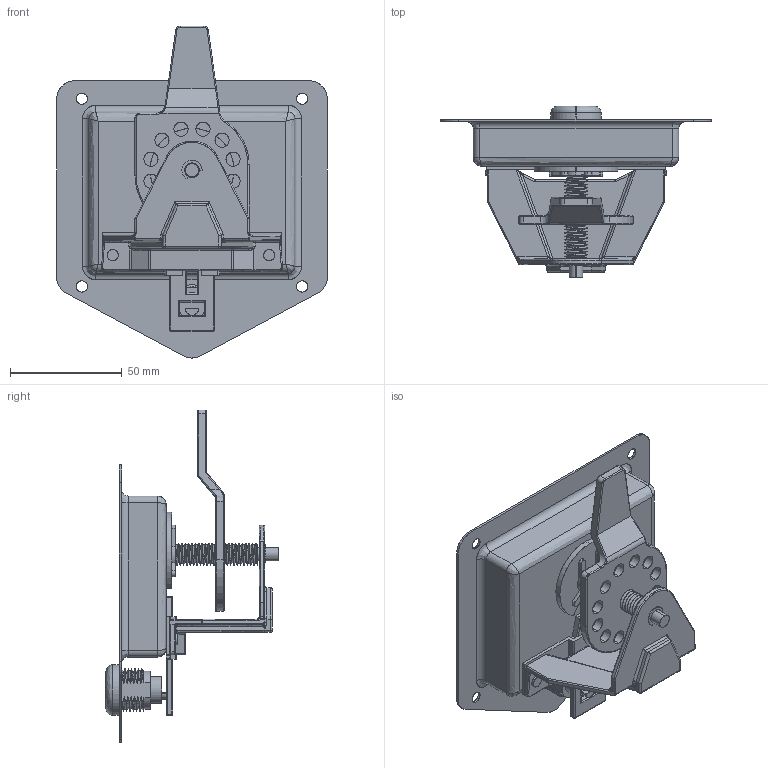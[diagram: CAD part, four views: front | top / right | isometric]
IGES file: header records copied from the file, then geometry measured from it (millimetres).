
Start section: SolidWorks IGES file using analytic representation for surfaces
Global section: file name: D:\尚坤工业图纸\SK1--门锁系列\SK1-830\SK1-830.IGS; native system: SolidWorks 2015; preprocessor: SolidWorks 2015; author: admin; date: 181101.112257; units: millimetre
Bounding box: 121 x 77 x 148.5 mm (x, y, z)
Surface area: 69316.9 mm2 (no closed solid volume)
Topology: 0 solids, 0 shells, 730 faces, 8972 edges, 8930 vertices
Faces by surface type: revolution 401, bspline 329
